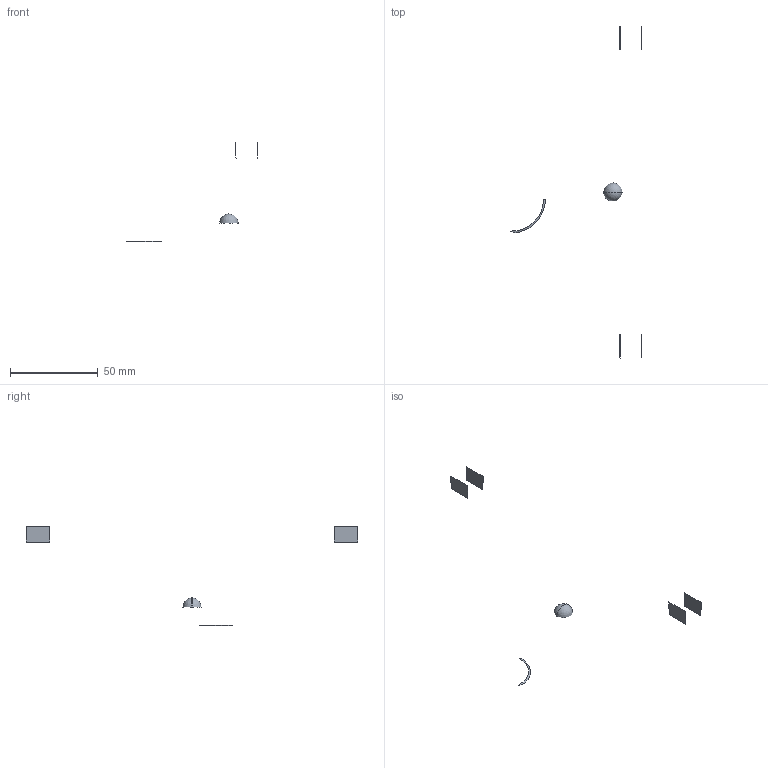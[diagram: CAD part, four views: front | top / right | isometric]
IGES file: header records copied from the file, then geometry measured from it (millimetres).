
Global section: file name: Filename.iges; native system: MATRA-DATAVISION CASCADE OL 4.0; preprocessor: CASCADE IGES processor V4.0; author: knr; date: 20020614.124417; units: millimetre
Bounding box: 74.99 x 189.5 x 56.85 mm (x, y, z)
Surface area: 693.5 mm2 (no closed solid volume)
Topology: 0 solids, 0 shells, 7 faces, 35 edges, 33 vertices
Faces by surface type: extrusion 4, revolution 3
